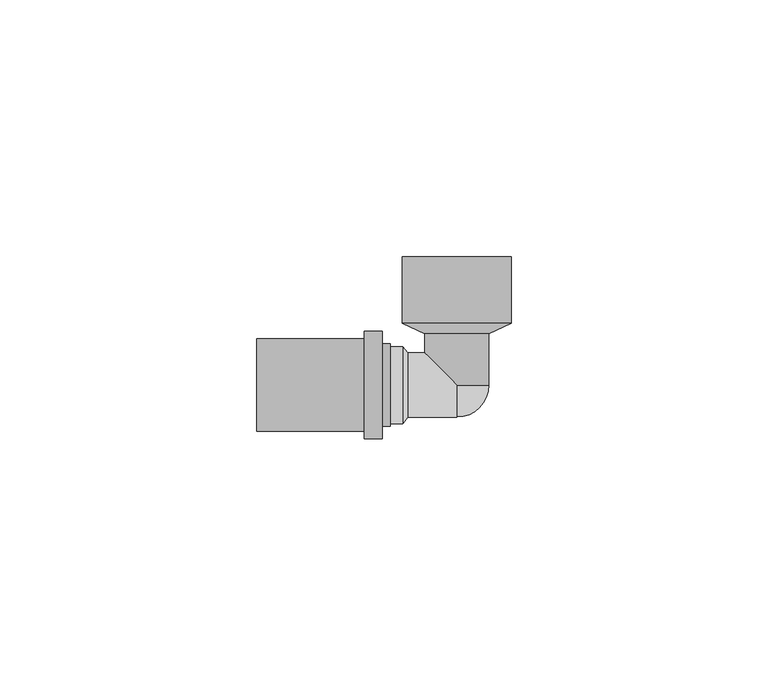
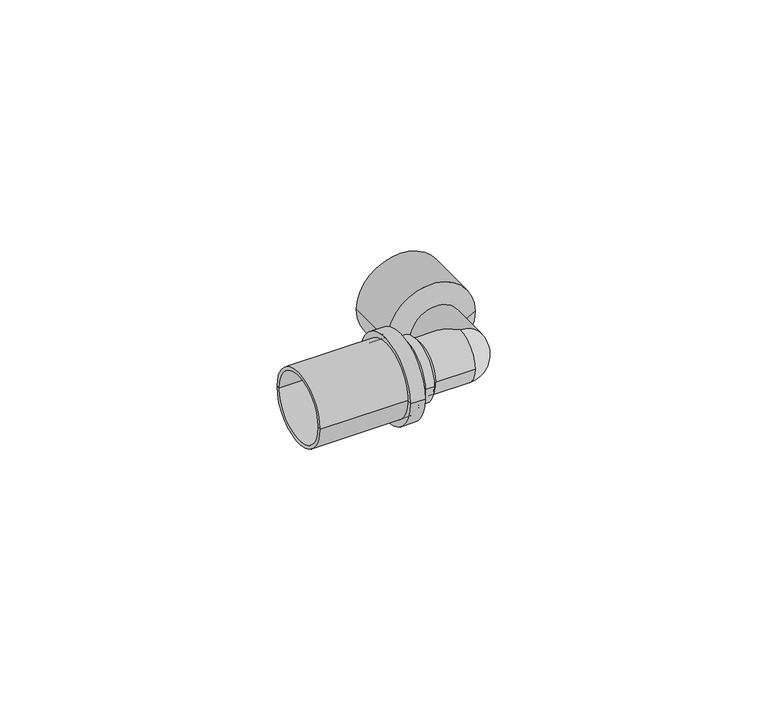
"""IFC4 building model written with IfcOpenShell, lengths in millimetres: pipe fitting geometry, Astra Gás - Cotovelo com Rosca Macho - GCR : Astra Gás - Cotovelo com Rosca Macho - GCR."""

import ifcopenshell
import ifcopenshell.guid

model = None  # the IFC model being written
_history = None  # IfcOwnerHistory: only IFC2X3 demands one
_inside = {}  # id of a spatial element -> (the spatial element, [elements in it])
_under = {}  # id of a project, library or spatial element -> (it, [spatial elements below it])
_declared = {}  # id of a project -> (the project, [libraries it declares])
_typed = {}  # id of a type object -> (the type object, [elements of that type])
_made_of = {}  # id of a material, layer set ... -> (it, [elements and type objects made of it])


def new_model(schema):
    """Start an empty IFC model of exactly this schema.

    Asked for "IFC4X3", IfcOpenShell would pick the latest addendum, in which some entities
    have other attributes; the version numbers below select the first issue.
    IFC2X3 requires an IfcOwnerHistory on every rooted entity: one is made here for all.
    """
    global model, _history
    if schema == "IFC4X3":
        model = ifcopenshell.file(schema_version=(4, 3, 0, 0))
    else:
        model = ifcopenshell.file(schema=schema)
    _inside.clear()
    _under.clear()
    _declared.clear()
    _typed.clear()
    _made_of.clear()
    _history = None
    if model.schema == "IFC2X3":
        org = make("IfcOrganization", Name="unknown")
        user = make(
            "IfcPersonAndOrganization",
            ThePerson=make("IfcPerson", FamilyName="unknown"),
            TheOrganization=org,
        )
        app = make(
            "IfcApplication",
            ApplicationDeveloper=org,
            Version="unknown",
            ApplicationFullName="unknown",
            ApplicationIdentifier="unknown",
        )
        _history = make(
            "IfcOwnerHistory",
            OwningUser=user,
            OwningApplication=app,
            ChangeAction="ADDED",
            CreationDate=0,
        )
    return model


def make(cls, **values):
    """One entity of the class cls with the attributes given. An attribute that is None is left unset."""
    return model.create_entity(
        cls, **{name: value for name, value in values.items() if value is not None}
    )


def rooted(cls, **values):
    """An entity with a GlobalId (a new one), such as an element, a storey or a relation."""
    return make(cls, GlobalId=ifcopenshell.guid.new(), OwnerHistory=_history, **values)


def si_unit(unit_type, name, prefix=None):
    """IfcSIUnit, for example si_unit("LENGTHUNIT", "METRE", prefix="MILLI")."""
    return make("IfcSIUnit", UnitType=unit_type, Prefix=prefix, Name=name)


def assignment(units):
    """IfcUnitAssignment: the units of a project."""
    return None if units is None else make("IfcUnitAssignment", Units=units)


def point(xyz):
    """IfcCartesianPoint."""
    return None if xyz is None else make("IfcCartesianPoint", Coordinates=xyz)


def direction(xyz):
    """IfcDirection."""
    return None if xyz is None else make("IfcDirection", DirectionRatios=xyz)


def frame(location, z_axis=None, x_axis=None):
    """IfcAxis2Placement3D, a coordinate frame: its origin and axes. An axis left out is left unset."""
    return make(
        "IfcAxis2Placement3D",
        Location=point(location),
        Axis=direction(z_axis),
        RefDirection=direction(x_axis),
    )


def origin():
    """The frame at (0, 0, 0) with its axes left unset."""
    return frame((0.0, 0.0, 0.0))


def place(relative_to, where):
    """IfcLocalPlacement: puts the frame where relative to a parent placement (None: the world)."""
    return make(
        "IfcLocalPlacement", PlacementRelTo=relative_to, RelativePlacement=where
    )


def context(
    kind, dimensions, precision=None, world=None, true_north=None, identifier=None
):
    """IfcGeometricRepresentationContext, for example the 3D "Model" context."""
    return make(
        "IfcGeometricRepresentationContext",
        ContextIdentifier=identifier,
        ContextType=kind,
        CoordinateSpaceDimension=dimensions,
        Precision=precision,
        WorldCoordinateSystem=world,
        TrueNorth=true_north,
    )


def project(units=None, contexts=None):
    """IfcProject with its units and contexts."""
    return rooted(
        "IfcProject",
        Name="project",
        RepresentationContexts=contexts,
        UnitsInContext=assignment(units),
    )


def spatial(cls, under=None, at=None, **own):
    """A site, building, storey or space (cls), placed at a placement, below another one or the project."""
    s = rooted(cls, ObjectPlacement=at, **own)
    if under is not None:
        _under.setdefault(under.id(), (under, []))[1].append(s)
    return s


def polyline(points):
    """IfcPolyline through the points."""
    return make("IfcPolyline", Points=[point(p) for p in points])


def circle_curve(where, radius):
    """IfcCircle in the frame where."""
    return make("IfcCircle", Position=where, Radius=radius)


def ellipse_curve(where, semi_axis1, semi_axis2):
    """IfcEllipse in the frame where."""
    return make(
        "IfcEllipse", Position=where, SemiAxis1=semi_axis1, SemiAxis2=semi_axis2
    )


def trimmed(basis, trim1, trim2, sense, master):
    """IfcTrimmedCurve: the piece of a basis curve between two trims."""
    return make(
        "IfcTrimmedCurve",
        BasisCurve=basis,
        Trim1=trim1,
        Trim2=trim2,
        SenseAgreement=sense,
        MasterRepresentation=master,
    )


def shape(context_of_items, identifier, shape_type, items):
    """IfcShapeRepresentation: the items that make up one representation, for example the "Body"."""
    return make(
        "IfcShapeRepresentation",
        ContextOfItems=context_of_items,
        RepresentationIdentifier=identifier,
        RepresentationType=shape_type,
        Items=items,
    )


def source(mapping_origin, context_of_items, identifier, shape_type, items):
    """IfcRepresentationMap: a shape defined once, which mapped items show again and again."""
    return make(
        "IfcRepresentationMap",
        MappingOrigin=mapping_origin,
        MappedRepresentation=shape(context_of_items, identifier, shape_type, items),
    )


def transform(
    local_origin,
    x_axis=None,
    y_axis=None,
    z_axis=None,
    scale=None,
    scale2=None,
    scale3=None,
    uniform=True,
):
    """IfcCartesianTransformationOperator3D, or its non-uniform kind. x_axis, y_axis, z_axis: its Axis1, 2, 3."""
    if uniform:
        return make(
            "IfcCartesianTransformationOperator3D",
            Axis1=direction(x_axis),
            Axis2=direction(y_axis),
            LocalOrigin=point(local_origin),
            Scale=scale,
            Axis3=direction(z_axis),
        )
    return make(
        "IfcCartesianTransformationOperator3DnonUniform",
        Axis1=direction(x_axis),
        Axis2=direction(y_axis),
        LocalOrigin=point(local_origin),
        Scale=scale,
        Axis3=direction(z_axis),
        Scale2=scale2,
        Scale3=scale3,
    )


def mapped(mapping_source, mapping_target):
    """IfcMappedItem: shows the shape of a source again, moved by a transform."""
    return make(
        "IfcMappedItem", MappingSource=mapping_source, MappingTarget=mapping_target
    )


def made_of(thing, what):
    """Note that an element or type object is made of a material, layer set ...; save() writes the relation."""
    if what is not None:
        _made_of.setdefault(what.id(), (what, []))[1].append(thing)
    return thing


def element(
    cls,
    number,
    at=None,
    inside=None,
    cuts=None,
    type_object=None,
    material=None,
    context=None,
    identifier="Body",
    shape_type=None,
    held_by="IfcProductDefinitionShape",
    body=None,
    shapes=None,
    **own,
):
    """One element of the class cls, such as IfcWall. Its Tag is "e" and its number.

    at: its placement. inside: the storey or other place that contains it. cuts: it is an
    opening in that element (IfcRelVoidsElement). A single representation is given by context,
    identifier, shape_type and body (its items); several are given by shapes. held_by: the class
    of the entity that holds the representations. save() writes the other relations.
    """
    e = rooted(cls, Tag="e%d" % number, ObjectPlacement=at, **own)
    if body is not None:
        shapes = [shape(context, identifier, shape_type, body)]
    if shapes is not None:
        e.Representation = make(held_by, Representations=shapes)
    if inside is not None:
        _inside.setdefault(inside.id(), (inside, []))[1].append(e)
    if cuts is not None:
        rooted(
            "IfcRelVoidsElement", RelatingBuildingElement=cuts, RelatedOpeningElement=e
        )
    if type_object is not None:
        _typed.setdefault(type_object.id(), (type_object, []))[1].append(e)
    return made_of(e, material)


def aggregate(whole, parts):
    """IfcRelAggregates: a whole, such as a stair, and the parts it consists of."""
    return rooted("IfcRelAggregates", RelatingObject=whole, RelatedObjects=parts)


def save(model, path):
    """Write the relations noted so far, then the file.

    IfcRelAggregates (storeys below a building ...), IfcRelContainedInSpatialStructure (elements
    in a storey), IfcRelDefinesByType, IfcRelAssociatesMaterial and IfcRelDeclares: one each for
    every whole, place, type object, material and project.
    """
    for whole, parts in _under.values():
        aggregate(whole, parts)
    for where, things in _inside.values():
        rooted(
            "IfcRelContainedInSpatialStructure",
            RelatedElements=things,
            RelatingStructure=where,
        )
    for kind, things in _typed.values():
        rooted("IfcRelDefinesByType", RelatedObjects=things, RelatingType=kind)
    for what, things in _made_of.values():
        rooted("IfcRelAssociatesMaterial", RelatedObjects=things, RelatingMaterial=what)
    for by, libraries in _declared.values():
        rooted("IfcRelDeclares", RelatingContext=by, RelatedDefinitions=libraries)
    model.write(path)


def plane_surface(at):
    """IfcPlane: the flat surface through the origin of the frame at, square to its z axis."""
    return make("IfcPlane", Position=at)


def cylinder_surface(at, radius):
    """IfcCylindricalSurface: all points at the distance radius from the z axis of the frame at."""
    return make("IfcCylindricalSurface", Position=at, Radius=radius)


def revolved_surface(curve, axis_point, axis_direction):
    """IfcSurfaceOfRevolution: the curve turned about the line through axis_point along axis_direction."""
    return make(
        "IfcSurfaceOfRevolution",
        SweptCurve=make("IfcArbitraryOpenProfileDef", ProfileType="CURVE", Curve=curve),
        AxisPosition=make("IfcAxis1Placement", Location=point(axis_point), Axis=direction(axis_direction)),
    )


def advanced_brep(points, edges, surfaces, faces):
    """IfcAdvancedBrep: a solid bounded by faces that lie on surfaces and meet in shared edges.

    An edge is (start, end): straight between two places in points (the first is 0);
    or (start, end, curve); or (start, end, curve, False) where it runs against its curve.
    A face is (place in surfaces, loops), or (place, loops, False) where it looks against
    its surface's normal. A loop lists edges by number (the first is 1), with a minus sign
    where the edge is run from its end to its start. The first loop is the outer one.
    """
    corners = [point(p) for p in points]
    vertices = [make("IfcVertexPoint", VertexGeometry=c) for c in corners]
    made = []
    for start, end, *more in edges:
        made.append(
            make(
                "IfcEdgeCurve",
                EdgeStart=vertices[start],
                EdgeEnd=vertices[end],
                EdgeGeometry=more[0] if more else make("IfcPolyline", Points=[corners[start], corners[end]]),
                SameSense=more[1] if len(more) > 1 else True,
            )
        )
    hull = []
    for where, loops, *sense in faces:
        bounds = []
        for j, loop in enumerate(loops):
            ring = [make("IfcOrientedEdge", EdgeElement=made[abs(k) - 1], Orientation=k > 0) for k in loop]
            bounds.append(
                make(
                    "IfcFaceOuterBound" if j == 0 else "IfcFaceBound",
                    Bound=make("IfcEdgeLoop", EdgeList=ring),
                    Orientation=True,
                )
            )
        hull.append(make("IfcAdvancedFace", Bounds=bounds, FaceSurface=surfaces[where], SameSense=sense[0] if sense else True))
    return make("IfcAdvancedBrep", Outer=make("IfcClosedShell", CfsFaces=hull))


def pipe_fitting_d493ae4f(model_context):
    return source(origin(), model_context, "Body", "AdvancedBrep", [
        advanced_brep(
        [(-39.0, -9.05, 0.0), (-39.0, 9.05, 0.0), (-15.5, 9.05, 0.0), (-15.5, -9.05, 0.0), (-39.0, -8.25, 0.0), (-39.0, 8.25, 0.0), (-15.5, -8.25, 0.0), (-15.5, 8.25, 0.0)],
        [
            (0, 1, circle_curve(frame((-39.0, 0.0, 0.0), z_axis=(1.0, 0.0, 0.0), x_axis=(0.0, 1.0, 0.0)), 9.05)),
            (1, 2),
            (2, 3, circle_curve(frame((-15.5, 0.0, 0.0), z_axis=(-1.0, 0.0, 0.0), x_axis=(0.0, 1.0, 0.0)), 9.05)),
            (3, 0),
            (1, 0, circle_curve(frame((-39.0, 0.0, 0.0), z_axis=(1.0, 0.0, 0.0), x_axis=(0.0, 1.0, 0.0)), 9.05)),
            (3, 2, circle_curve(frame((-15.5, 0.0, 0.0), z_axis=(-1.0, 0.0, 0.0), x_axis=(0.0, 1.0, 0.0)), 9.05)),
            (4, 5, circle_curve(frame((-39.0, 0.0, 0.0), z_axis=(1.0, 0.0, 0.0), x_axis=(0.0, 1.0, 0.0)), 8.25)),
            (5, 1),
            (0, 4),
            (5, 4, circle_curve(frame((-39.0, 0.0, 0.0), z_axis=(1.0, 0.0, 0.0), x_axis=(0.0, 1.0, 0.0)), 8.25)),
            (6, 7, circle_curve(frame((-15.5, 0.0, 0.0), z_axis=(1.0, 0.0, 0.0), x_axis=(0.0, 1.0, 0.0)), 8.25)),
            (7, 5),
            (4, 6),
            (7, 6, circle_curve(frame((-15.5, 0.0, 0.0), z_axis=(1.0, 0.0, 0.0), x_axis=(0.0, 1.0, 0.0)), 8.25)),
            (2, 7),
            (6, 3),
        ],
        [
            cylinder_surface(frame((-39.0, 0.0, 0.0), z_axis=(-1.0, 0.0, 0.0), x_axis=(0.0, 1.0, 0.0)), 9.05),
            plane_surface(frame((-39.0, 0.0, 0.0), z_axis=(-1.0, 0.0, 0.0), x_axis=(0.0, 1.0, 0.0))),
            revolved_surface(polyline([(-39.0, 8.25, 0.0), (-15.5, 8.25, 0.0)]), (-39.0, 0.0, 0.0), (-1.0, 0.0, 0.0)),
            plane_surface(frame((-15.5, 0.0, 0.0), z_axis=(1.0, 0.0, 0.0), x_axis=(0.0, 1.0, 0.0))),
        ],
        [
            (0, [[1, 2, 3, 4]]),
            (0, [[5, -4, 6, -2]]),
            (1, [[7, 8, -1, 9]]),
            (1, [[10, -9, -5, -8]]),
            (2, [[11, 12, -7, 13]]),
            (2, [[14, -13, -10, -12]]),
            (3, [[-3, 15, -11, 16]]),
            (3, [[-6, -16, -14, -15]]),
        ],
    ),
        advanced_brep(
        [(-15.5, -9.05, 0.0), (-15.5, 9.05, 0.0), (-18.0, 9.05, 0.0), (-18.0, -9.05, 0.0), (-15.5, 0.0, 0.0), (-13.0, -8.0, 0.0), (-13.0, 8.0, 0.0), (-13.0, 0.0, 0.0), (-14.5, -8.0, 0.0), (-14.5, 8.0, 0.0), (-14.5, -10.5, 0.0), (-14.5, 10.5, 0.0), (-18.0, -10.5, 0.0), (-18.0, 10.5, 0.0)],
        [
            (0, 1, circle_curve(frame((-15.5, 0.0, 0.0), z_axis=(1.0, 0.0, 0.0), x_axis=(0.0, 1.0, 0.0)), 9.05)),
            (1, 2),
            (2, 3, circle_curve(frame((-18.0, 0.0, 0.0), z_axis=(-1.0, 0.0, 0.0), x_axis=(0.0, 1.0, 0.0)), 9.05)),
            (3, 0),
            (1, 0, circle_curve(frame((-15.5, 0.0, 0.0), z_axis=(1.0, 0.0, 0.0), x_axis=(0.0, 1.0, 0.0)), 9.05)),
            (3, 2, circle_curve(frame((-18.0, 0.0, 0.0), z_axis=(-1.0, 0.0, 0.0), x_axis=(0.0, 1.0, 0.0)), 9.05)),
            (4, 1),
            (0, 4),
            (5, 6, circle_curve(frame((-13.0, 0.0, 0.0), z_axis=(1.0, 0.0, 0.0), x_axis=(0.0, 1.0, 0.0)), 8.0)),
            (6, 7),
            (7, 5),
            (6, 5, circle_curve(frame((-13.0, 0.0, 0.0), z_axis=(1.0, 0.0, 0.0), x_axis=(0.0, 1.0, 0.0)), 8.0)),
            (8, 9, circle_curve(frame((-14.5, 0.0, 0.0), z_axis=(1.0, 0.0, 0.0), x_axis=(0.0, 1.0, 0.0)), 8.0)),
            (9, 6),
            (5, 8),
            (9, 8, circle_curve(frame((-14.5, 0.0, 0.0), z_axis=(1.0, 0.0, 0.0), x_axis=(0.0, 1.0, 0.0)), 8.0)),
            (10, 11, circle_curve(frame((-14.5, 0.0, 0.0), z_axis=(1.0, 0.0, 0.0), x_axis=(0.0, 1.0, 0.0)), 10.5)),
            (11, 9),
            (8, 10),
            (11, 10, circle_curve(frame((-14.5, 0.0, 0.0), z_axis=(1.0, 0.0, 0.0), x_axis=(0.0, 1.0, 0.0)), 10.5)),
            (12, 13, circle_curve(frame((-18.0, 0.0, 0.0), z_axis=(1.0, 0.0, 0.0), x_axis=(0.0, 1.0, 0.0)), 10.5)),
            (13, 11),
            (10, 12),
            (13, 12, circle_curve(frame((-18.0, 0.0, 0.0), z_axis=(1.0, 0.0, 0.0), x_axis=(0.0, 1.0, 0.0)), 10.5)),
            (2, 13),
            (12, 3),
        ],
        [
            revolved_surface(polyline([(-18.0, 9.05, 0.0), (-15.5, 9.05, 0.0)]), (-18.0, 0.0, 0.0), (-1.0, 0.0, 0.0)),
            plane_surface(frame((-15.5, 0.0, 0.0), z_axis=(-1.0, 0.0, 0.0), x_axis=(0.0, 1.0, 0.0))),
            plane_surface(frame((-13.0, 0.0, 0.0), z_axis=(1.0, 0.0, 0.0), x_axis=(0.0, 1.0, 0.0))),
            cylinder_surface(frame((-18.0, 0.0, 0.0), z_axis=(-1.0, 0.0, 0.0), x_axis=(0.0, 1.0, 0.0)), 8.0),
            plane_surface(frame((-14.5, 0.0, 0.0), z_axis=(1.0, 0.0, 0.0), x_axis=(0.0, 1.0, 0.0))),
            cylinder_surface(frame((-18.0, 0.0, 0.0), z_axis=(-1.0, 0.0, 0.0), x_axis=(0.0, 1.0, 0.0)), 10.5),
            plane_surface(frame((-18.0, 0.0, 0.0), z_axis=(-1.0, 0.0, 0.0), x_axis=(0.0, 1.0, 0.0))),
        ],
        [
            (0, [[1, 2, 3, 4]]),
            (0, [[5, -4, 6, -2]]),
            (1, [[7, -1, 8]]),
            (1, [[-8, -5, -7]]),
            (2, [[9, 10, 11]]),
            (2, [[12, -11, -10]]),
            (3, [[13, 14, -9, 15]]),
            (3, [[16, -15, -12, -14]]),
            (4, [[17, 18, -13, 19]]),
            (4, [[20, -19, -16, -18]]),
            (5, [[21, 22, -17, 23]]),
            (5, [[24, -23, -20, -22]]),
            (6, [[-3, 25, -21, 26]]),
            (6, [[-6, -26, -24, -25]]),
        ],
    ),
        advanced_brep(
        [(-13.0, 7.5, 0.0), (-13.0, -7.5, 0.0), (-13.0, 0.0, 0.0), (-10.5511081, 7.5, 0.0), (-10.5511081, -7.5, 0.0), (-9.5388781, 6.25, 0.0), (-9.5388781, -6.25, 0.0), (-6.25, 6.25, 0.0), (0.0, 0.0, -6.25), (0.0, -4.3268714, -4.5100648), (0.0, -6.25, 0.0), (0.0, -4.3268714, 4.5100648), (0.0, 0.0, 6.25), (-6.25, 10.0, 0.0), (6.25, 10.0, 0.0), (6.25, 0.0, 0.0), (-10.6, 12.0313464, 0.0), (10.6, 12.0313464, 0.0), (-10.6, 25.0, 0.0), (10.6, 25.0, 0.0), (0.0, 25.0, 0.0)],
        [
            (0, 1, circle_curve(frame((-13.0, 0.0, 0.0), z_axis=(-1.0, 0.0, 0.0), x_axis=(0.0, -1.0, 0.0)), 7.5)),
            (1, 2),
            (2, 0),
            (1, 0, circle_curve(frame((-13.0, 0.0, 0.0), z_axis=(-1.0, 0.0, 0.0), x_axis=(0.0, -1.0, 0.0)), 7.5)),
            (0, 3),
            (3, 4, circle_curve(frame((-10.5511081, 0.0, 0.0), z_axis=(-1.0, 0.0, 0.0), x_axis=(0.0, -1.0, 0.0)), 7.5)),
            (4, 1),
            (4, 3, circle_curve(frame((-10.5511081, 0.0, 0.0), z_axis=(-1.0, 0.0, 0.0), x_axis=(0.0, -1.0, 0.0)), 7.5)),
            (3, 5),
            (5, 6, circle_curve(frame((-9.5388781, 0.0, 0.0), z_axis=(-1.0, 0.0, 0.0), x_axis=(0.0, -1.0, 0.0)), 6.25)),
            (6, 4),
            (6, 5, circle_curve(frame((-9.5388781, 0.0, 0.0), z_axis=(-1.0, 0.0, 0.0), x_axis=(0.0, -1.0, 0.0)), 6.25)),
            (5, 7),
            (7, 8, ellipse_curve(frame((0.0, 0.0, 0.0), z_axis=(-0.7071067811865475, -0.7071067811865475, 0.0), x_axis=(0.7071067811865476, -0.7071067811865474, 0.0)), 8.8388348, 6.25)),
            (8, 9, circle_curve(frame((0.0, 0.0, 0.0), z_axis=(-1.0, 0.0, 0.0), x_axis=(0.0, -1.0, 0.0)), 6.25)),
            (9, 10, circle_curve(frame((0.0, 0.0, 0.0), z_axis=(-1.0, 0.0, 0.0), x_axis=(0.0, -1.0, 0.0)), 6.25)),
            (10, 6),
            (10, 11, circle_curve(frame((0.0, 0.0, 0.0), z_axis=(-1.0, 0.0, 0.0), x_axis=(0.0, -1.0, 0.0)), 6.25)),
            (11, 12, circle_curve(frame((0.0, 0.0, 0.0), z_axis=(-1.0, 0.0, 0.0), x_axis=(0.0, -1.0, 0.0)), 6.25)),
            (12, 7, ellipse_curve(frame((0.0, 0.0, 0.0), z_axis=(-0.7071067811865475, -0.7071067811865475, 0.0), x_axis=(0.7071067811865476, -0.7071067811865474, 0.0)), 8.8388348, 6.25)),
            (13, 14, circle_curve(frame((0.0, 10.0, 0.0), z_axis=(0.0, -1.0, 0.0), x_axis=(1.0, 0.0, 0.0)), 6.25)),
            (14, 15),
            (15, 8, circle_curve(frame((0.0, 0.0, 0.0), z_axis=(0.0, 1.0, 0.0), x_axis=(1.0, 0.0, 0.0)), 6.25)),
            (7, 13),
            (14, 13, circle_curve(frame((0.0, 10.0, 0.0), z_axis=(0.0, -1.0, 0.0), x_axis=(1.0, 0.0, 0.0)), 6.25)),
            (12, 15, circle_curve(frame((0.0, 0.0, 0.0), z_axis=(0.0, 1.0, 0.0), x_axis=(1.0, 0.0, 0.0)), 6.25)),
            (13, 16),
            (16, 17, circle_curve(frame((0.0, 12.0313464, 0.0), z_axis=(0.0, -1.0, 0.0), x_axis=(1.0, 0.0, 0.0)), 10.6)),
            (17, 14),
            (17, 16, circle_curve(frame((0.0, 12.0313464, 0.0), z_axis=(0.0, -1.0, 0.0), x_axis=(1.0, 0.0, 0.0)), 10.6)),
            (16, 18),
            (18, 19, circle_curve(frame((0.0, 25.0, 0.0), z_axis=(0.0, -1.0, 0.0), x_axis=(1.0, 0.0, 0.0)), 10.6)),
            (19, 17),
            (19, 18, circle_curve(frame((0.0, 25.0, 0.0), z_axis=(0.0, -1.0, 0.0), x_axis=(1.0, 0.0, 0.0)), 10.6)),
            (18, 20),
            (20, 19),
        ],
        [
            plane_surface(frame((-13.0, 0.0, 0.0), z_axis=(-1.0, 0.0, 0.0), x_axis=(0.0, -1.0, 0.0))),
            cylinder_surface(frame((-13.0, 0.0, 0.0), z_axis=(1.0, 0.0, 0.0), x_axis=(0.0, -1.0, 0.0)), 7.5),
            revolved_surface(polyline([(-10.5511081, -7.5, 0.0), (-9.5388781, -6.25, 0.0)]), (-13.0, 0.0, 0.0), (1.0, 0.0, 0.0)),
            cylinder_surface(frame((-13.0, 0.0, 0.0), z_axis=(1.0, 0.0, 0.0), x_axis=(0.0, -1.0, 0.0)), 6.25),
            cylinder_surface(frame((0.0, 25.0, 0.0), z_axis=(0.0, 1.0, 0.0), x_axis=(1.0, 0.0, 0.0)), 6.25),
            revolved_surface(polyline([(6.25, 10.0, 0.0), (10.6, 12.0313464, 0.0)]), (0.0, 25.0, 0.0), (0.0, 1.0, 0.0)),
            cylinder_surface(frame((0.0, 25.0, 0.0), z_axis=(0.0, 1.0, 0.0), x_axis=(1.0, 0.0, 0.0)), 10.6),
            plane_surface(frame((0.0, 25.0, 0.0), z_axis=(0.0, 1.0, 0.0), x_axis=(1.0, 0.0, 0.0))),
            revolved_surface(trimmed(ellipse_curve(frame((0.0, 0.0, 0.0), z_axis=(0.0, 1.0, 0.0), x_axis=(-1.0, 0.0, 0.0)), 6.25, 6.25), [point((0.0, 0.0, 6.25))], [point((0.0, 0.0, -6.25))], True, "CARTESIAN"), (0.0, 0.0, 6.25), (0.0, 0.0, -1.0)),
        ],
        [
            (0, [[1, 2, 3]]),
            (0, [[-2, 4, -3]]),
            (1, [[-1, 5, 6, 7]]),
            (1, [[-4, -7, 8, -5]]),
            (2, [[-6, 9, 10, 11]]),
            (2, [[-8, -11, 12, -9]]),
            (3, [[-10, 13, 14, 15, 16, 17]]),
            (3, [[-12, -17, 18, 19, 20, -13]]),
            (4, [[21, 22, 23, -14, 24]]),
            (4, [[-22, 25, -24, -20, 26]]),
            (5, [[-21, 27, 28, 29]]),
            (5, [[-25, -29, 30, -27]]),
            (6, [[-28, 31, 32, 33]]),
            (6, [[-30, -33, 34, -31]]),
            (7, [[-32, 35, 36]]),
            (7, [[-34, -36, -35]]),
            (8, [[-15, -23, -26, -19, -18, -16]]),
        ],
    ),
    ])


if __name__ == "__main__":
    model = new_model("IFC4")
    model_context = context("Model", 3, world=origin())
    ifc_project = project(units=[si_unit("LENGTHUNIT", "METRE", prefix="MILLI")], contexts=[model_context])
    site = spatial("IfcSite", under=ifc_project)
    building = spatial("IfcBuilding", under=site)
    placement = place(None, origin())
    pipe_fitting_shape = pipe_fitting_d493ae4f(model_context)
    element("IfcPipeFitting", 1, ObjectType="Astra Gás - Cotovelo com Rosca Macho - GCR : Astra Gás - Cotovelo com Rosca Macho - GCR", at=placement, inside=building, context=model_context, shape_type="MappedRepresentation", body=[
        mapped(pipe_fitting_shape, transform((0.0, 0.0, 0.0), x_axis=(1.0, 0.0, 0.0), y_axis=(0.0, 1.0, 0.0), z_axis=(0.0, 0.0, 1.0))),
    ])
    save(model, "model.ifc")
